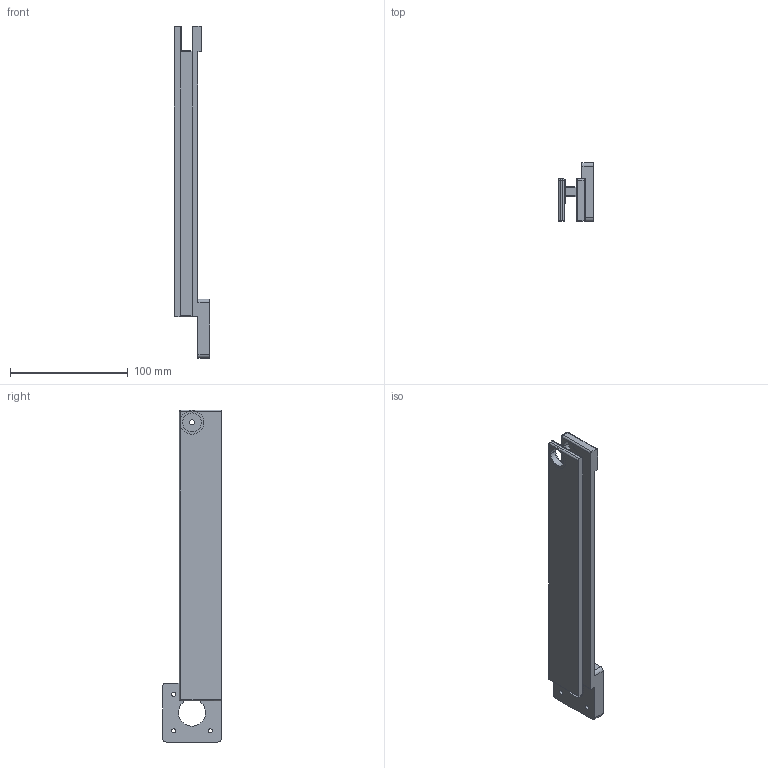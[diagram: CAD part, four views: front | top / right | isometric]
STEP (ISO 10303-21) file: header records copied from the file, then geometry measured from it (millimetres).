
FILE_DESCRIPTION (( 'STEP AP214' ), '1' );
FILE_NAME ('CNCrail.STEP', '2025-06-15T00:42:52', ( '' ), ( '' ), 'SwSTEP 2.0', 'SolidWorks 2024', '' );
FILE_SCHEMA (( 'AUTOMOTIVE_DESIGN' ));
Length unit declared in the file: millimetre
Products named in the file (1): CNCrail
Bounding box: 30 x 50 x 282 mm (x, y, z)
Volume: 118928.4 mm3; surface area: 49655.9 mm2
Topology: 2 solids, 2 shells, 94 faces, 241 edges, 149 vertices
Faces by surface type: cylinder 52, plane 34, sphere 7, torus 1
Entity records: 2920 total; most frequent: CARTESIAN_POINT 561, DIRECTION 503, ORIENTED_EDGE 474, EDGE_CURVE 237, AXIS2_PLACEMENT_3D 187, VERTEX_POINT 149, VECTOR 129, LINE 129
